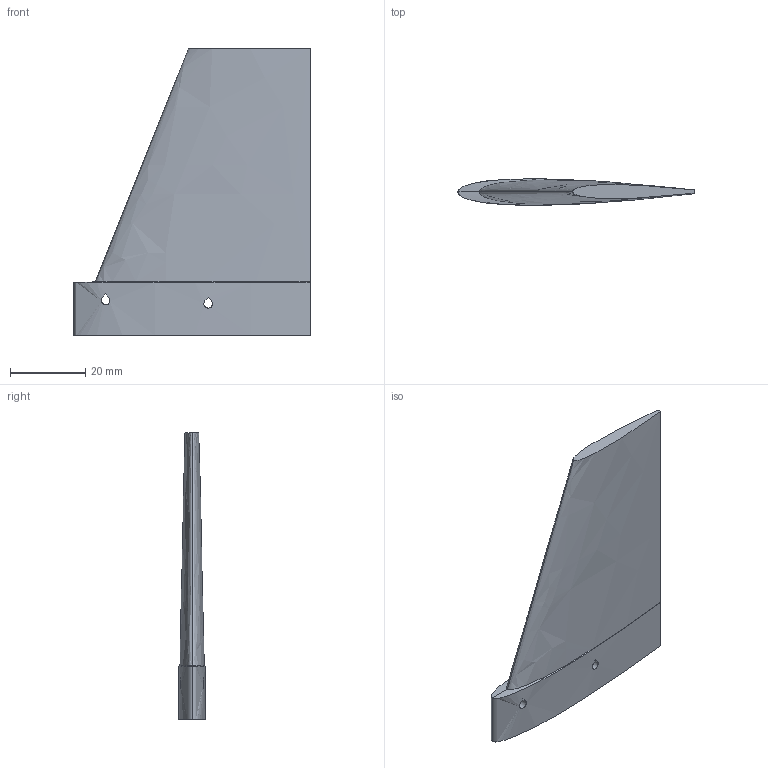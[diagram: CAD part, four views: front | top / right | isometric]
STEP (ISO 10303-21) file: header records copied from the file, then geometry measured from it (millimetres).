
FILE_DESCRIPTION(('SkyG Speed 90B - revision C6B-21 - 2026-10-16','FN-fin'),'2;1');
FILE_NAME('FN-fin_C6B-21','2026-10-16T11:47:24',('Author'),( 'Open CASCADE'),'Open CASCADE STEP processor 7.9','Open CASCADE 7.9' ,'Unknown');
FILE_SCHEMA(('AUTOMOTIVE_DESIGN { 1 0 10303 214 1 1 1 1 }'));
Length unit declared in the file: millimetre
Products named in the file (1): FN-fin C6B-21
Bounding box: 62.6 x 7.11 x 76.1 mm (x, y, z)
Volume: 14799.4 mm3; surface area: 8477 mm2
Topology: 1 solids, 1 shells, 22 faces, 59 edges, 40 vertices
Faces by surface type: plane 9, cylinder 7, bspline 6
Full cylindrical faces by diameter (mm): 1.9 x1
Entity records: 4022 total; most frequent: CARTESIAN_POINT 3011, DIRECTION 121, ORIENTED_EDGE 118, PCURVE 118, DEFINITIONAL_REPRESENTATION 118, B_SPLINE_CURVE_WITH_KNOTS 101, EDGE_CURVE 59, SURFACE_CURVE 58
